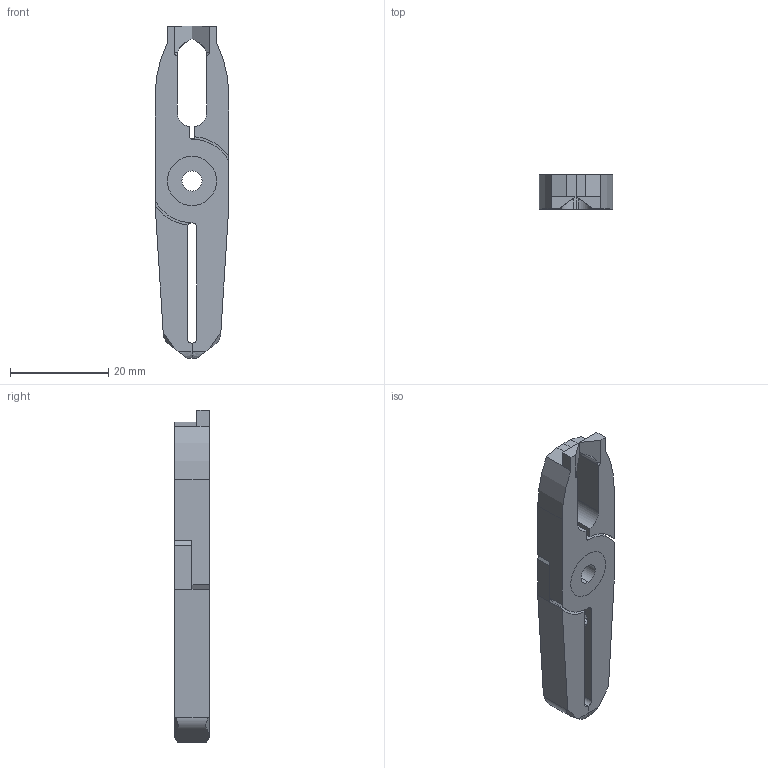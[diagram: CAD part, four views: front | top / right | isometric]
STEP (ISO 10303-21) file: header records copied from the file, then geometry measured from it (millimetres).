
FILE_DESCRIPTION (( 'STEP AP214' ), '1' );
FILE_NAME ('NT05AD.STEP', '2019-11-29T00:38:02', ( '微软用户' ), ( '微软中国' ), 'SwSTEP 2.0', 'SolidWorks 2016', '' );
FILE_SCHEMA (( 'AUTOMOTIVE_DESIGN' ));
Length unit declared in the file: millimetre
Products named in the file (4): BR2; BR1; BS; NT05AD
Assembly tree (3 placements, depth 2):
  NT05AD
    BS
    BR1
    BR2
Bounding box: 15 x 7 x 67.5 mm (x, y, z)
Volume: 4884.6 mm3; surface area: 4332.4 mm2
Topology: 3 solids, 3 shells, 102 faces, 268 edges, 170 vertices
Faces by surface type: plane 46, cylinder 24, cone 16, bspline 16
Entity records: 3366 total; most frequent: CARTESIAN_POINT 814, ORIENTED_EDGE 528, DIRECTION 476, EDGE_CURVE 264, VERTEX_POINT 170, LINE 166, VECTOR 166, AXIS2_PLACEMENT_3D 155
